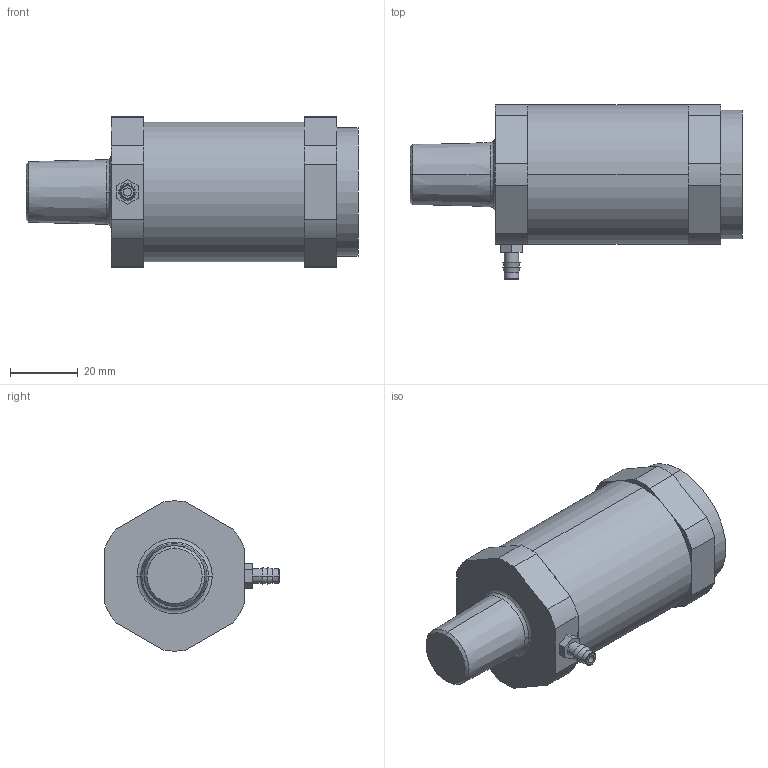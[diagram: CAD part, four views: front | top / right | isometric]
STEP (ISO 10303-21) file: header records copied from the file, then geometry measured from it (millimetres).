
FILE_DESCRIPTION((''),'2;1');
FILE_NAME('UD4_ASM','2017-08-24T',('jennifer.elliott'),('CenterLine (Windsor) Ltd - Automation Components Division'),'PRO/ENGINEER BY PARAMETRIC TECHNOLOGY CORPORATION, 2015030','PRO/ENGINEER BY PARAMETRIC TECHNOLOGY CORPORATION, 2015030','');
FILE_SCHEMA(('AUTOMOTIVE_DESIGN { 1 0 10303 214 1 1 1 1 }'));
Length unit declared in the file: inch
Products named in the file (6): PRT0092; PRT0093; PRT0094; PRT0095; PRT0096; UD4_ASM
Assembly tree (5 placements, depth 2):
  UD4_ASM
    PRT0092
    PRT0093
    PRT0094
    PRT0095
    PRT0096
Bounding box: 98.3 x 51.59 x 44.45 mm (x, y, z)
Volume: 105534.6 mm3; surface area: 21977.6 mm2
Topology: 5 solids, 5 shells, 70 faces, 183 edges, 127 vertices
Faces by surface type: plane 32, cylinder 22, torus 8, cone 8
Entity records: 2608 total; most frequent: DIRECTION 444, CARTESIAN_POINT 407, ORIENTED_EDGE 366, EDGE_CURVE 183, AXIS2_PLACEMENT_3D 180, VERTEX_POINT 127, CIRCLE 99, VECTOR 84
